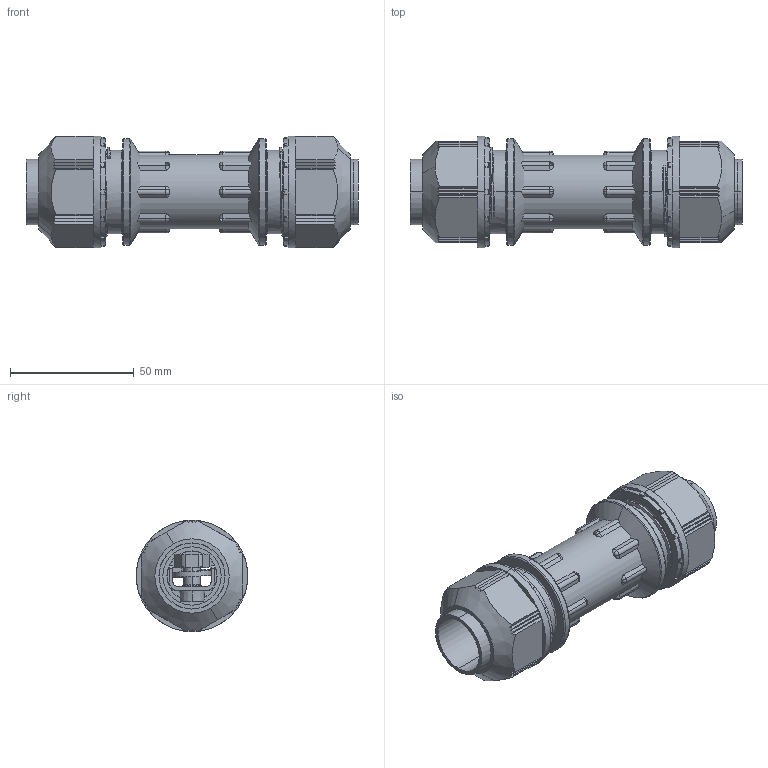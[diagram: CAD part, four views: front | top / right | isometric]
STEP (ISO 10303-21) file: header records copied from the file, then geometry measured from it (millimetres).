
FILE_DESCRIPTION(('Creo Elements/Direct Modeling STEP Export'),'2;1');
FILE_NAME('H07-0029-CL909-01_OA-QW2023S.stp','2012-09-19T14:32:42',(''),(''),'Creo Elements/Direct Modeling STEP processor for AP214 (Solid Model)','Creo Elements/Direct Modeling 18.0B 02-Dec-2011 (C) Parametric Technology GmbH','');
FILE_SCHEMA(('AUTOMOTIVE_DESIGN { 1 0 10303 214 1 1 1 1 }'));
Length unit declared in the file: millimetre
Products named in the file (13): G28-20A_L; G28-20B_L; G28-20_L; L側; G28-23_R; R側; OA-QW本体; M8x12アプセットボルト; M8SW; ねじ; OA-QW20S_接続ガイド; 接続ガイド; OA-QW2023S
Assembly tree (12 placements, depth 4):
  OA-QW2023S
    接続ガイド
      OA-QW20S_接続ガイド
      ねじ
        M8SW
        M8x12アプセットボルト
    OA-QW本体
    R側
      G28-23_R
    L側
      G28-20_L
        G28-20B_L
        G28-20A_L
Bounding box: 134 x 45 x 45 mm (x, y, z)
Volume: 81170.9 mm3; surface area: 50962.1 mm2
Topology: 7 solids, 7 shells, 649 faces, 1624 edges, 1000 vertices
Faces by surface type: plane 361, cylinder 144, cone 98, torus 20, sphere 20, bspline 6
Entity records: 22321 total; most frequent: CARTESIAN_POINT 8031, ORIENTED_EDGE 3192, DIRECTION 2460, EDGE_CURVE 1596, VERTEX_POINT 1000, AXIS2_PLACEMENT_3D 855, VECTOR 750, LINE 750
